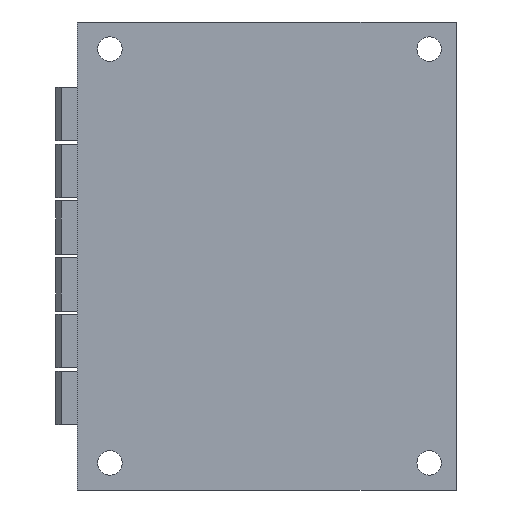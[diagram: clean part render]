
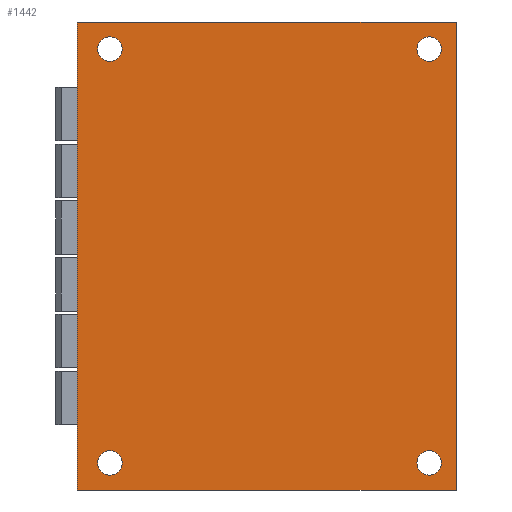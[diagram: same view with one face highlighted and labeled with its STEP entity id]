
A CAD part, front view. The second image highlights one B-rep face of the part: STEP entity #1442.
In plain terms, the highlighted planar face has unit normal (0, -1, 0) as drawn and (0, 0, 1) by its records, which use the part's own axes.
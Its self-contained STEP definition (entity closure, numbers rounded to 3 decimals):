
#1442=ADVANCED_FACE('',(#3108,#3109,#3110,#3111,#3112),#3113,.T.);
#3108=FACE_BOUND('',#5252,.T.);
#3109=FACE_BOUND('',#5253,.T.);
#3110=FACE_BOUND('',#5254,.T.);
#3111=FACE_BOUND('',#5255,.T.);
#3112=FACE_OUTER_BOUND('',#5256,.T.);
#3113=PLANE('',#5257);
#5252=EDGE_LOOP('',(#11186));
#5253=EDGE_LOOP('',(#11187));
#5254=EDGE_LOOP('',(#11188));
#5255=EDGE_LOOP('',(#11189));
#5256=EDGE_LOOP('',(#11190,#11191,#11192,#11193));
#5257=AXIS2_PLACEMENT_3D('',#11194,#11195,#11196);
#11186=ORIENTED_EDGE('',*,*,#15566,.F.);
#11187=ORIENTED_EDGE('',*,*,#15567,.T.);
#11188=ORIENTED_EDGE('',*,*,#15568,.F.);
#11189=ORIENTED_EDGE('',*,*,#15569,.T.);
#11190=ORIENTED_EDGE('',*,*,#15570,.T.);
#11191=ORIENTED_EDGE('',*,*,#15571,.T.);
#11192=ORIENTED_EDGE('',*,*,#15572,.T.);
#11193=ORIENTED_EDGE('',*,*,#15573,.T.);
#11194=CARTESIAN_POINT('',(-43.25,-35.0,25.889));
#11195=DIRECTION('',(0.0,0.0,1.0));
#11196=DIRECTION('',(1.0,0.0,0.0));
#15566=EDGE_CURVE('',#19148,#19148,#19149,.T.);
#15567=EDGE_CURVE('',#19150,#19150,#19151,.T.);
#15568=EDGE_CURVE('',#19152,#19152,#19153,.T.);
#15569=EDGE_CURVE('',#19154,#19154,#19155,.T.);
#15570=EDGE_CURVE('',#19156,#19157,#19158,.T.);
#15571=EDGE_CURVE('',#19157,#19159,#19160,.T.);
#15572=EDGE_CURVE('',#19159,#19161,#19162,.T.);
#15573=EDGE_CURVE('',#19161,#19156,#19163,.T.);
#19148=VERTEX_POINT('',#24740);
#19149=CIRCLE('',#24741,2.25);
#19150=VERTEX_POINT('',#24742);
#19151=CIRCLE('',#24743,2.25);
#19152=VERTEX_POINT('',#24744);
#19153=CIRCLE('',#24745,2.25);
#19154=VERTEX_POINT('',#24746);
#19155=CIRCLE('',#24747,2.25);
#19156=VERTEX_POINT('',#24748);
#19157=VERTEX_POINT('',#24749);
#19158=LINE('',#24750,#24751);
#19159=VERTEX_POINT('',#24752);
#19160=LINE('',#24753,#24754);
#19161=VERTEX_POINT('',#24755);
#19162=LINE('',#24756,#24757);
#19163=LINE('',#24758,#24759);
#24740=CARTESIAN_POINT('',(40.5,30.0,25.889));
#24741=AXIS2_PLACEMENT_3D('',#29062,#29063,#29064);
#24742=CARTESIAN_POINT('',(-40.5,30.0,25.889));
#24743=AXIS2_PLACEMENT_3D('',#29065,#29066,#29067);
#24744=CARTESIAN_POINT('',(40.5,-29.0,25.889));
#24745=AXIS2_PLACEMENT_3D('',#29068,#29069,#29070);
#24746=CARTESIAN_POINT('',(-40.5,-29.0,25.889));
#24747=AXIS2_PLACEMENT_3D('',#29071,#29072,#29073);
#24748=CARTESIAN_POINT('',(-43.25,35.0,25.889));
#24749=CARTESIAN_POINT('',(-43.25,-35.0,25.889));
#24750=CARTESIAN_POINT('',(-43.25,35.0,25.889));
#24751=VECTOR('',#29074,1.0);
#24752=CARTESIAN_POINT('',(43.25,-35.0,25.889));
#24753=CARTESIAN_POINT('',(-43.25,-35.0,25.889));
#24754=VECTOR('',#29075,1.0);
#24755=CARTESIAN_POINT('',(43.25,35.0,25.889));
#24756=CARTESIAN_POINT('',(43.25,-35.0,25.889));
#24757=VECTOR('',#29076,1.0);
#24758=CARTESIAN_POINT('',(43.25,35.0,25.889));
#24759=VECTOR('',#29077,1.0);
#29062=CARTESIAN_POINT('',(38.25,30.0,25.889));
#29063=DIRECTION('',(0.0,0.0,1.0));
#29064=DIRECTION('',(1.0,0.0,0.0));
#29065=CARTESIAN_POINT('',(-38.25,30.0,25.889));
#29066=DIRECTION('',(0.0,0.0,-1.0));
#29067=DIRECTION('',(-1.0,0.0,0.0));
#29068=CARTESIAN_POINT('',(38.25,-29.0,25.889));
#29069=DIRECTION('',(0.0,0.0,1.0));
#29070=DIRECTION('',(1.0,0.0,0.0));
#29071=CARTESIAN_POINT('',(-38.25,-29.0,25.889));
#29072=DIRECTION('',(0.0,0.0,-1.0));
#29073=DIRECTION('',(-1.0,0.0,0.0));
#29074=DIRECTION('',(0.0,-1.0,0.0));
#29075=DIRECTION('',(1.0,0.0,0.0));
#29076=DIRECTION('',(0.0,1.0,0.0));
#29077=DIRECTION('',(-1.0,0.0,0.0));
